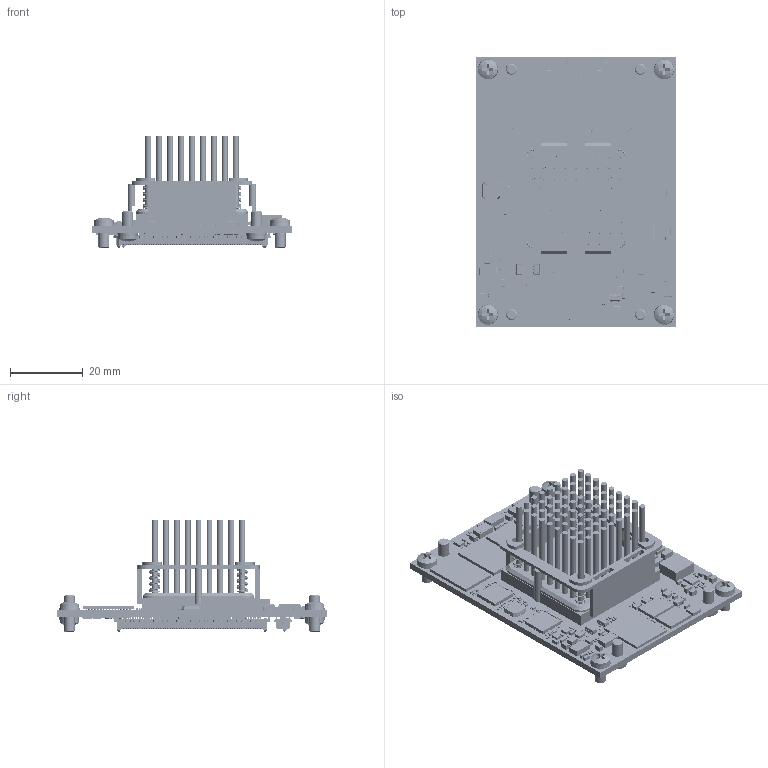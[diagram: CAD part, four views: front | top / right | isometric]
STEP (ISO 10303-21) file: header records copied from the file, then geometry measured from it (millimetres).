
FILE_DESCRIPTION(('Open CASCADE Model'),'2;1');
FILE_NAME('Open CASCADE Shape Model','2025-11-20T14:29:35',('Author'),( 'Open CASCADE'),'Open CASCADE STEP processor 7.5','Open CASCADE 7.5' ,'Unknown');
FILE_SCHEMA(('AUTOMOTIVE_DESIGN { 1 0 10303 214 1 1 1 1 }'));
Length unit declared in the file: millimetre
Products named in the file (671): PCB; Board=projectname; Open CASCADE STEP translator 7.5 1.1.1; MECH1=projectname; 906-31-2-23-X-B-0; HS310_ROUND; 9xx_spring; 31-no lip; R142=projectname; 8188836864; R141=projectname; C218=projectname; User Library-SMD 0201 CAPACITOR; U4=projectname; 8188832704; U3=projectname; C212=projectname; 8674329248; Extruded; 8960310688; 9014098976; 8673334544; 8468617920; C200=projectname; 8973712768; 9042946688; C131=projectname; 9013480832; 9017018128; 9068235280; 8984608016; 8468617440; U38=projectname; 8592873872; Cylinder; 8592873712; U37=projectname; 8592873552; R140=projectname; RES_0603-0201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
Assembly tree (1158 placements, depth 4):
  PCB
    Board=projectname
      Open CASCADE STEP translator 7.5 1.1.1
    MECH1=projectname
      906-31-2-23-X-B-0
        HS310_ROUND
        9xx_spring  x4
        31-no lip
    R142=projectname
      8188836864
    R141=projectname
      8188836864
    C218=projectname
      User Library-SMD 0201 CAPACITOR
    U4=projectname
      8188832704
    U3=projectname
      8188832704
    C212=projectname
      8674329248
        Extruded
      8960310688
        Extruded
      9014098976
        Extruded
      8673334544
        Extruded
      8468617920  x2
        Extruded
    C200=projectname
      8973712768
        Extruded
      9042946688
        Extruded
      8673334544
        Extruded
      9014098976
        Extruded
      8468617920  x2
        Extruded
    C131=projectname
      9013480832
        Extruded
      9017018128
        Extruded
      9068235280
        Extruded
      8984608016
        Extruded
      8468617440  x2
        Extruded
    U38=projectname
      8592873872
        Cylinder
      8592873712
        Extruded
    U37=projectname
      8592873552
        Cylinder
      8592873712
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Bounding box: 55 x 74 x 30.8 mm (x, y, z)
Volume: 20807 mm3; surface area: 39950 mm2
Topology: 2271 solids, 2279 shells, 54147 faces, 138477 edges, 86660 vertices
Faces by surface type: plane 35562, cylinder 12890, sphere 4290, bspline 1153, torus 198, cone 54
Full cylindrical faces by diameter (mm): 0.4 x5, 0.6 x3, 0.8 x2, 1 x6, 1.2 x1, 3.2 x8
Entity records: 564993 total; most frequent: CARTESIAN_POINT 107164, ORIENTED_EDGE 77234, DIRECTION 70212, EDGE_CURVE 38617, LINE 30190, VECTOR 30190, VERTEX_POINT 25940, AXIS2_PLACEMENT_3D 20011
